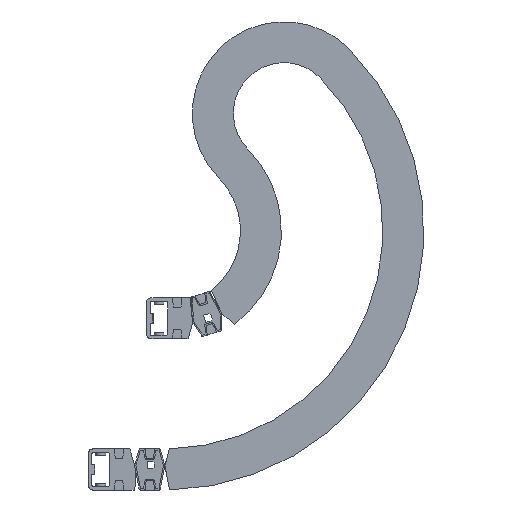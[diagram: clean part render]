
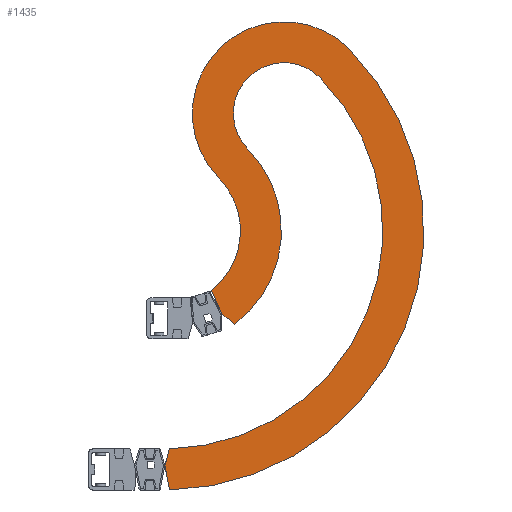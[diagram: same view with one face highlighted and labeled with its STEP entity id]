
A CAD part, front view. The second image highlights one B-rep face of the part: STEP entity #1435.
In plain terms, the highlighted planar face has unit normal (0, -1, 0).
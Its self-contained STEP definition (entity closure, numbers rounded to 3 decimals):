
#1435 = ADVANCED_FACE( '', ( #2871 ), #2872, .F. );
#2871 = FACE_OUTER_BOUND( '', #4297, .T. );
#2872 = PLANE( '', #4298 );
#4297 = EDGE_LOOP( '', ( #8632, #8633, #8634, #8635, #8636, #8637, #8638, #8639, #8640, #8641 ) );
#4298 = AXIS2_PLACEMENT_3D( '', #8642, #8643, #8644 );
#8632 = ORIENTED_EDGE( '', *, *, #9643, .F. );
#8633 = ORIENTED_EDGE( '', *, *, #9565, .F. );
#8634 = ORIENTED_EDGE( '', *, *, #9417, .F. );
#8635 = ORIENTED_EDGE( '', *, *, #10619, .T. );
#8636 = ORIENTED_EDGE( '', *, *, #10193, .F. );
#8637 = ORIENTED_EDGE( '', *, *, #10124, .F. );
#8638 = ORIENTED_EDGE( '', *, *, #9918, .F. );
#8639 = ORIENTED_EDGE( '', *, *, #9453, .T. );
#8640 = ORIENTED_EDGE( '', *, *, #9491, .T. );
#8641 = ORIENTED_EDGE( '', *, *, #10585, .F. );
#8642 = CARTESIAN_POINT( '', ( 0., -39.5, 0. ) );
#8643 = DIRECTION( '', ( 0., 1., 0. ) );
#8644 = DIRECTION( '', ( 0., 0., 1. ) );
#9417 = EDGE_CURVE( '', #11625, #11626, #11627, .T. );
#9453 = EDGE_CURVE( '', #11686, #11687, #11688, .T. );
#9491 = EDGE_CURVE( '', #11687, #11748, #11749, .T. );
#9565 = EDGE_CURVE( '', #11626, #11869, #11870, .T. );
#9643 = EDGE_CURVE( '', #11869, #11988, #11989, .T. );
#9918 = EDGE_CURVE( '', #11686, #12410, #12411, .T. );
#10124 = EDGE_CURVE( '', #12410, #12694, #12695, .T. );
#10193 = EDGE_CURVE( '', #12694, #12785, #12786, .T. );
#10585 = EDGE_CURVE( '', #11988, #11748, #13254, .T. );
#10619 = EDGE_CURVE( '', #11625, #12785, #13288, .T. );
#11625 = VERTEX_POINT( '', #14681 );
#11626 = VERTEX_POINT( '', #14682 );
#11627 = CIRCLE( '', #14683, 85. );
#11686 = VERTEX_POINT( '', #14760 );
#11687 = VERTEX_POINT( '', #14761 );
#11688 = CIRCLE( '', #14762, 47. );
#11748 = VERTEX_POINT( '', #14845 );
#11749 = CIRCLE( '', #14846, 202. );
#11869 = VERTEX_POINT( '', #15018 );
#11870 = CIRCLE( '', #15019, 240. );
#11988 = VERTEX_POINT( '', #15189 );
#11989 = LINE( '', #15190, #15191 );
#12410 = VERTEX_POINT( '', #15805 );
#12411 = CIRCLE( '', #15806, 108. );
#12694 = VERTEX_POINT( '', #16214 );
#12695 = LINE( '', #16215, #16216 );
#12785 = VERTEX_POINT( '', #16353 );
#12786 = LINE( '', #16354, #16355 );
#13254 = LINE( '', #17025, #17026 );
#13288 = CIRCLE( '', #17068, 70. );
#14681 = CARTESIAN_POINT( '', ( 49.888, -39.5, 49.104 ) );
#14682 = CARTESIAN_POINT( '', ( 171.045, -39.5, 168.356 ) );
#14683 = AXIS2_PLACEMENT_3D( '', #17729, #17730, #17731 );
#14760 = CARTESIAN_POINT( '', ( 76.97, -39.5, 75.76 ) );
#14761 = CARTESIAN_POINT( '', ( 143.963, -39.5, 141.7 ) );
#14762 = AXIS2_PLACEMENT_3D( '', #17792, #17793, #17794 );
#14845 = CARTESIAN_POINT( '', ( 4.396, -39.5, -201.952 ) );
#14846 = AXIS2_PLACEMENT_3D( '', #17836, #17837, #17838 );
#15018 = CARTESIAN_POINT( '', ( 4.374, -39.5, -239.96 ) );
#15019 = AXIS2_PLACEMENT_3D( '', #17906, #17907, #17908 );
#15189 = CARTESIAN_POINT( '', ( 0., -39.5, -217. ) );
#15190 = CARTESIAN_POINT( '', ( 4.374, -39.5, -239.96 ) );
#15191 = VECTOR( '', #17985, 1000. );
#15805 = CARTESIAN_POINT( '', ( 64.714, -39.5, -86.465 ) );
#15806 = AXIS2_PLACEMENT_3D( '', #18266, #18267, #18268 );
#16214 = CARTESIAN_POINT( '', ( 52.677, -39.5, -76.643 ) );
#16215 = CARTESIAN_POINT( '', ( 64.714, -39.5, -86.465 ) );
#16216 = VECTOR( '', #18466, 1000. );
#16353 = CARTESIAN_POINT( '', ( 43.204, -39.5, -55.077 ) );
#16354 = CARTESIAN_POINT( '', ( 52.677, -39.5, -76.643 ) );
#16355 = VECTOR( '', #18550, 1000. );
#17025 = CARTESIAN_POINT( '', ( 0., -39.5, -217. ) );
#17026 = VECTOR( '', #18855, 1000. );
#17068 = AXIS2_PLACEMENT_3D( '', #18870, #18871, #18872 );
#17729 = CARTESIAN_POINT( '', ( 110.466, -39.5, 108.73 ) );
#17730 = DIRECTION( '', ( 0., 1., 0. ) );
#17731 = DIRECTION( '', ( 1., 0., 0. ) );
#17792 = CARTESIAN_POINT( '', ( 110.466, -39.5, 108.73 ) );
#17793 = DIRECTION( '', ( 0., 1., 0. ) );
#17794 = DIRECTION( '', ( 1., 0., 0. ) );
#17836 = CARTESIAN_POINT( '', ( 0., -39.5, 0. ) );
#17837 = DIRECTION( '', ( 0., 1., 0. ) );
#17838 = DIRECTION( '', ( 1., 0., 0. ) );
#17906 = CARTESIAN_POINT( '', ( 0., -39.5, 0. ) );
#17907 = DIRECTION( '', ( 0., 1., 0. ) );
#17908 = DIRECTION( '', ( 1., 0., 0. ) );
#17985 = DIRECTION( '', ( -0.187, 0., 0.982 ) );
#18266 = CARTESIAN_POINT( '', ( 0., -39.5, 0. ) );
#18267 = DIRECTION( '', ( 0., 1., 0. ) );
#18268 = DIRECTION( '', ( 1., 0., 0. ) );
#18466 = DIRECTION( '', ( -0.775, 0., 0.632 ) );
#18550 = DIRECTION( '', ( -0.402, 0., 0.916 ) );
#18855 = DIRECTION( '', ( 0.28, 0., 0.96 ) );
#18870 = CARTESIAN_POINT( '', ( 0., -39.5, 0. ) );
#18871 = DIRECTION( '', ( 0., 1., 0. ) );
#18872 = DIRECTION( '', ( 1., 0., 0. ) );
